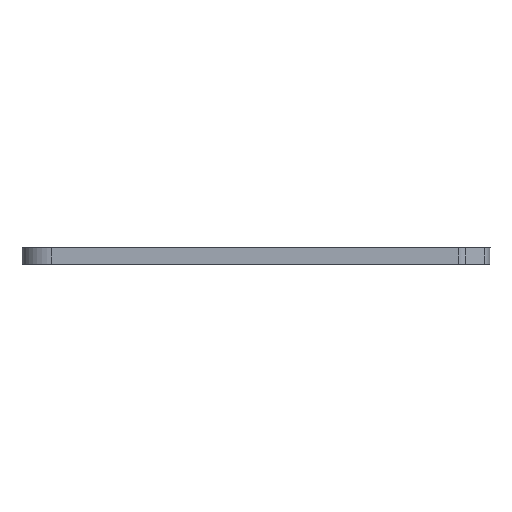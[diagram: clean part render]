
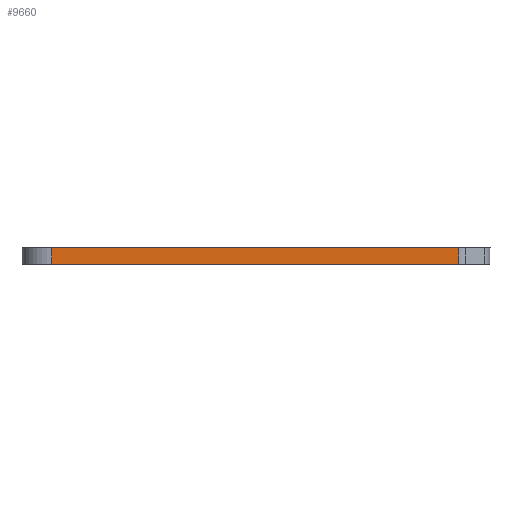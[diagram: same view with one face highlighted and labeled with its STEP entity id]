
A CAD part, front view. The second image highlights one B-rep face of the part: STEP entity #9660.
In plain terms, the highlighted planar face has unit normal (0, -1, 0).
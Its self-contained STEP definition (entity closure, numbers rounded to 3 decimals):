
#470=CARTESIAN_POINT('',(65.195,-38.2,
2.2));
#480=VERTEX_POINT('',#470);
#510=CARTESIAN_POINT('',(47.92,-38.2,2.2));
#520=DIRECTION('',(1.,0.,0.));
#530=VECTOR('',#520,1.);
#540=LINE('',#510,#530);
#550=CARTESIAN_POINT('',(10.78,-38.2,
2.2));
#560=VERTEX_POINT('',#550);
#570=EDGE_CURVE('',#560,#480,#540,.T.);
#6970=CARTESIAN_POINT('',(10.78,-38.2,
0.));
#6980=VERTEX_POINT('',#6970);
#7010=CARTESIAN_POINT('',(47.92,-38.2,
0.));
#7020=DIRECTION('',(1.,0.,0.));
#7030=VECTOR('',#7020,1.);
#7040=LINE('',#7010,#7030);
#7050=CARTESIAN_POINT('',(65.195,-38.2,
0.));
#7060=VERTEX_POINT('',#7050);
#7070=EDGE_CURVE('',#6980,#7060,#7040,.T.);
#9400=CARTESIAN_POINT('',(65.195,-38.2,
2.2));
#9410=DIRECTION('',(0.,0.,-1.));
#9420=VECTOR('',#9410,1.);
#9430=LINE('',#9400,#9420);
#9440=EDGE_CURVE('',#480,#7060,#9430,.T.);
#9500=CARTESIAN_POINT('',(10.78,-38.2,
2.2));
#9510=DIRECTION('',(0.,-1.,0.));
#9520=DIRECTION('',(-1.,-0.,0.));
#9530=AXIS2_PLACEMENT_3D('',#9500,#9510,#9520);
#9540=PLANE('',#9530);
#9550=ORIENTED_EDGE('',*,*,#9440,.F.);
#9560=ORIENTED_EDGE('',*,*,#7070,.T.);
#9570=CARTESIAN_POINT('',(10.78,-38.2,
2.2));
#9580=DIRECTION('',(0.,0.,-1.));
#9590=VECTOR('',#9580,1.);
#9600=LINE('',#9570,#9590);
#9610=EDGE_CURVE('',#560,#6980,#9600,.T.);
#9620=ORIENTED_EDGE('',*,*,#9610,.T.);
#9630=ORIENTED_EDGE('',*,*,#570,.F.);
#9640=EDGE_LOOP('',(#9630,#9620,#9560,#9550));
#9650=FACE_OUTER_BOUND('',#9640,.T.);
#9660=ADVANCED_FACE('',(#9650),#9540,.T.);
